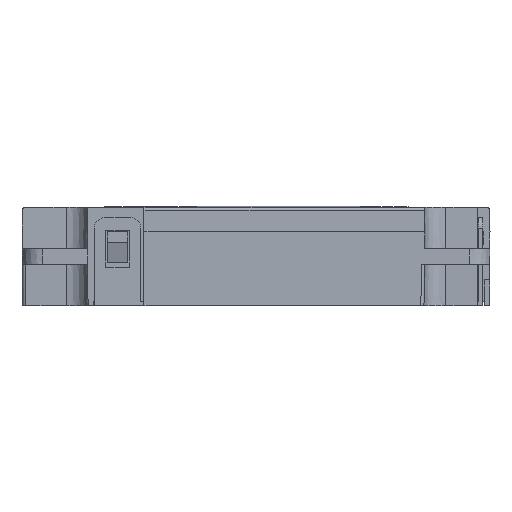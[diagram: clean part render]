
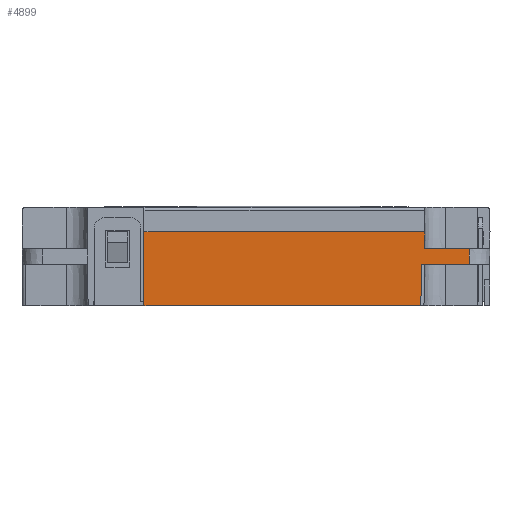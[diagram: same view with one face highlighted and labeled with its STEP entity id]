
A CAD part, left-side view. The second image highlights one B-rep face of the part: STEP entity #4899.
In plain terms, the highlighted planar face has unit normal (-1, 0, -0.009).
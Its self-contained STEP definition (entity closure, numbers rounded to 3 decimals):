
#596=LINE('',#35941,#1397);
#622=LINE('',#36034,#1423);
#666=LINE('',#36158,#1467);
#816=LINE('',#37215,#1617);
#818=LINE('',#37219,#1619);
#820=LINE('',#37223,#1621);
#886=LINE('',#37384,#1688);
#889=LINE('',#37389,#1691);
#1397=VECTOR('',#23855,1.);
#1423=VECTOR('',#23931,1.);
#1467=VECTOR('',#24037,1.);
#1617=VECTOR('',#24482,1.);
#1619=VECTOR('',#24486,1.);
#1621=VECTOR('',#24490,1.);
#1688=VECTOR('',#24639,1.);
#1691=VECTOR('',#24646,1.);
#3242=FACE_OUTER_BOUND('',#6287,.T.);
#4899=ADVANCED_FACE('',(#3242),#5294,.F.);
#5294=PLANE('',#20117);
#6287=EDGE_LOOP('',(#11051,#11052,#11053,#11054,#11055,#11056,#11057,#11058));
#11051=ORIENTED_EDGE('',*,*,#16112,.T.);
#11052=ORIENTED_EDGE('',*,*,#16507,.F.);
#11053=ORIENTED_EDGE('',*,*,#16006,.F.);
#11054=ORIENTED_EDGE('',*,*,#16504,.T.);
#11055=ORIENTED_EDGE('',*,*,#16051,.F.);
#11056=ORIENTED_EDGE('',*,*,#16430,.F.);
#11057=ORIENTED_EDGE('',*,*,#16428,.F.);
#11058=ORIENTED_EDGE('',*,*,#16426,.T.);
#13495=VERTEX_POINT('',#35940);
#13496=VERTEX_POINT('',#35942);
#13537=VERTEX_POINT('',#36033);
#13538=VERTEX_POINT('',#36035);
#13586=VERTEX_POINT('',#36157);
#13587=VERTEX_POINT('',#36159);
#13832=VERTEX_POINT('',#37216);
#13833=VERTEX_POINT('',#37220);
#16006=EDGE_CURVE('',#13495,#13496,#596,.T.);
#16051=EDGE_CURVE('',#13537,#13538,#622,.T.);
#16112=EDGE_CURVE('',#13587,#13586,#666,.T.);
#16426=EDGE_CURVE('',#13832,#13587,#816,.T.);
#16428=EDGE_CURVE('',#13832,#13833,#818,.T.);
#16430=EDGE_CURVE('',#13833,#13537,#820,.T.);
#16504=EDGE_CURVE('',#13495,#13538,#886,.T.);
#16507=EDGE_CURVE('',#13496,#13586,#889,.T.);
#20117=AXIS2_PLACEMENT_3D('',#37390,#24647,#24648);
#23855=DIRECTION('',(0.,1.,0.));
#23931=DIRECTION('',(0.,-1.,0.));
#24037=DIRECTION('',(0.,-1.,0.));
#24482=DIRECTION('',(0.009,0.,-1.));
#24486=DIRECTION('',(0.,-1.,0.));
#24490=DIRECTION('',(0.009,-0.009,-1.));
#24639=DIRECTION('',(-0.009,0.,1.));
#24646=DIRECTION('',(0.009,0.017,-1.));
#24647=DIRECTION('',(1.,0.,0.009));
#24648=DIRECTION('',(0.,1.,0.));
#35940=CARTESIAN_POINT('',(-26.203,-22.11,-3.137));
#35941=CARTESIAN_POINT('',(-26.203,-22.11,-3.137));
#35942=CARTESIAN_POINT('',(-26.203,-17.505,-3.137));
#36033=CARTESIAN_POINT('',(-26.216,-17.807,-1.637));
#36034=CARTESIAN_POINT('',(-26.216,-17.807,-1.637));
#36035=CARTESIAN_POINT('',(-26.216,-22.11,-1.637));
#36157=CARTESIAN_POINT('',(-26.168,-17.436,-7.136));
#36158=CARTESIAN_POINT('',(-26.168,9.322,-7.136));
#36159=CARTESIAN_POINT('',(-26.168,9.322,-7.136));
#37215=CARTESIAN_POINT('',(-26.231,9.322,0.));
#37216=CARTESIAN_POINT('',(-26.231,9.322,0.));
#37219=CARTESIAN_POINT('',(-26.231,9.322,0.));
#37220=CARTESIAN_POINT('',(-26.231,-17.793,0.));
#37223=CARTESIAN_POINT('',(-26.231,-17.793,0.));
#37384=CARTESIAN_POINT('',(-26.203,-22.11,-3.137));
#37389=CARTESIAN_POINT('',(-26.203,-17.505,-3.137));
#37390=CARTESIAN_POINT('',(-26.231,19.095,0.));
